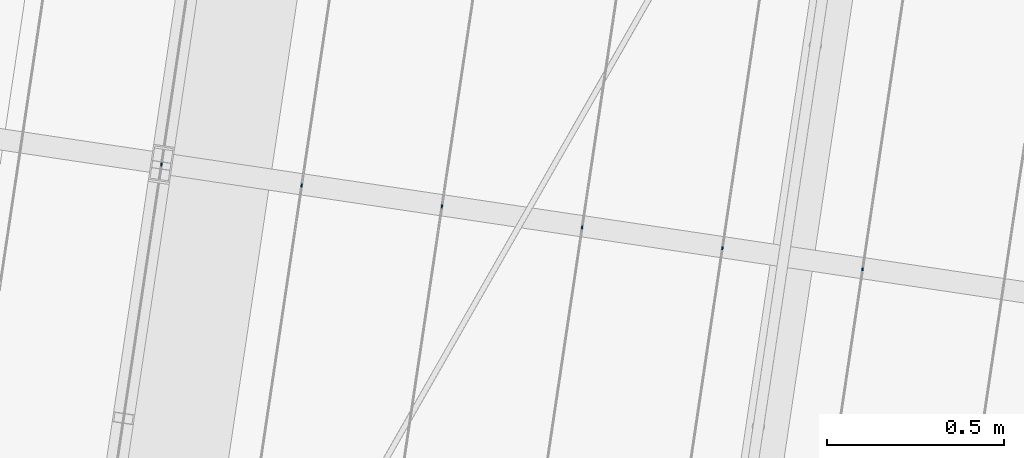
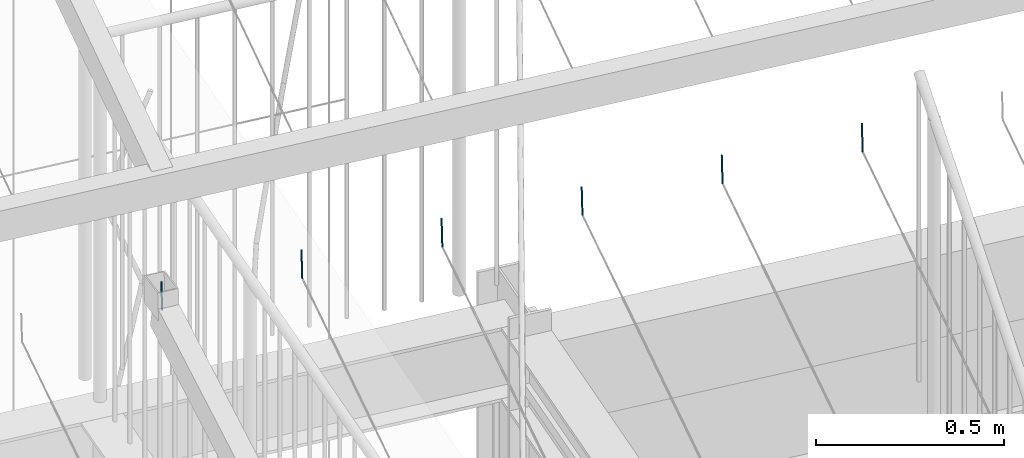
# One storey, part 127 of 142: 6 members, 1 element without a shape of its own.
"""IFC4 building model written with IfcOpenShell, lengths in metres."""

from ifc_helpers import new_model, si_unit, direction, frame, origin_with_axes, place, context, subcontext, project, spatial, circle, extrude, material, material_profile, profile_set, profile_usage, type_object, element, aggregate, save


model = new_model("IFC4")

# Units and contexts
model_context = context("Model", 3, precision=1e-05, world=origin_with_axes(), true_north=direction((0.0, 1.0)))
body_context = subcontext(model_context, "Body", "Model", "MODEL_VIEW")
ifc_project = project(units=[si_unit("AREAUNIT", "SQUARE_METRE"), si_unit("VOLUMEUNIT", "CUBIC_METRE"), si_unit("LENGTHUNIT", "METRE")], contexts=[model_context])

# Site, building, storey
site_placement = place(None, origin_with_axes())
site = spatial("IfcSite", under=ifc_project, at=site_placement, Name="Lares · Rua das Mercês · artigo 4771")
building_placement = place(site_placement, frame((15.0, 9.7, 14.65), z_axis=(0.0, 0.0, 1.0), x_axis=(0.989015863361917, -0.147809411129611, 0.0)))
building = spatial("IfcBuilding", under=site, at=building_placement, Name="Casa Sobreposta")
storey_placement = place(building_placement, origin_with_axes())
storey = spatial("IfcBuildingStorey", under=building, at=storey_placement, Name="00 · Habitação e estacionamento", Elevation=14.65)

# Assembly, members
assembly_placement = place(storey_placement, origin_with_axes())
assembly = element("IfcElementAssembly", 1, at=assembly_placement, inside=storey, Name="Pérgola · prolongamento da estufa 6 m", ObjectType="PERGOLA_GREENHOUSE_EXTENSION", PredefinedType="USERDEFINED")
ifc_material = material(Name="Aço galvanizado / Stahl verzinkt", Category="steel")
ifc_material_profile = material_profile(ifc_material, circle(Radius=0.002))
ifc_profile_set = profile_set([ifc_material_profile], Name="D0.004")
ifc_profile_usage_1 = profile_usage(ifc_profile_set)
member_type = type_object("IfcMemberType", Name="D0.004 / galvanized", PredefinedType="NOTDEFINED", material=ifc_profile_set)
member_1_placement = place(assembly_placement, frame((-3.0, 1.21440957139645, 7.21329402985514), z_axis=(0.0, 0.0686229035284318, 0.997642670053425), x_axis=(1.0, 0.0, 0.0)))
member_1 = element("IfcMember", 2, at=member_1_placement, type_object=member_type, material=ifc_profile_usage_1, Name="Pérgola · fio para trepadeiras", context=body_context, shape_type="SweptSolid", body=[
    extrude(circle(Radius=0.002), origin_with_axes(), (0.0, 0.0, 1.0), 0.0875893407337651),
])
ifc_profile_usage_2 = profile_usage(ifc_profile_set)
member_2_placement = place(assembly_placement, frame((-2.6, 1.21440957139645, 7.21329402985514), z_axis=(0.0, 0.0686229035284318, 0.997642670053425), x_axis=(1.0, 0.0, 0.0)))
member_2 = element("IfcMember", 3, at=member_2_placement, type_object=member_type, material=ifc_profile_usage_2, Name="Pérgola · fio para trepadeiras", context=body_context, shape_type="SweptSolid", body=[
    extrude(circle(Radius=0.002), origin_with_axes(), (0.0, 0.0, 1.0), 0.0875893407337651),
])
ifc_profile_usage_3 = profile_usage(ifc_profile_set)
member_3_placement = place(assembly_placement, frame((-2.2, 1.21440957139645, 7.21329402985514), z_axis=(0.0, 0.0686229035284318, 0.997642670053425), x_axis=(1.0, 0.0, 0.0)))
member_3 = element("IfcMember", 4, at=member_3_placement, type_object=member_type, material=ifc_profile_usage_3, Name="Pérgola · fio para trepadeiras", context=body_context, shape_type="SweptSolid", body=[
    extrude(circle(Radius=0.002), origin_with_axes(), (0.0, 0.0, 1.0), 0.0875893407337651),
])
ifc_profile_usage_4 = profile_usage(ifc_profile_set)
member_4_placement = place(assembly_placement, frame((-1.8, 1.21440957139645, 7.21329402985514), z_axis=(0.0, 0.0686229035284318, 0.997642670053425), x_axis=(1.0, 0.0, 0.0)))
member_4 = element("IfcMember", 5, at=member_4_placement, type_object=member_type, material=ifc_profile_usage_4, Name="Pérgola · fio para trepadeiras", context=body_context, shape_type="SweptSolid", body=[
    extrude(circle(Radius=0.002), origin_with_axes(), (0.0, 0.0, 1.0), 0.0875893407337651),
])
ifc_profile_usage_5 = profile_usage(ifc_profile_set)
member_5_placement = place(assembly_placement, frame((-1.4, 1.21440957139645, 7.21329402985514), z_axis=(0.0, 0.0686229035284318, 0.997642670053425), x_axis=(1.0, 0.0, 0.0)))
member_5 = element("IfcMember", 6, at=member_5_placement, type_object=member_type, material=ifc_profile_usage_5, Name="Pérgola · fio para trepadeiras", context=body_context, shape_type="SweptSolid", body=[
    extrude(circle(Radius=0.002), origin_with_axes(), (0.0, 0.0, 1.0), 0.0875893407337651),
])
ifc_profile_usage_6 = profile_usage(ifc_profile_set)
member_6_placement = place(assembly_placement, frame((-0.999999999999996, 1.21440957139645, 7.21329402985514), z_axis=(0.0, 0.0686229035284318, 0.997642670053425), x_axis=(1.0, 0.0, 0.0)))
member_6 = element("IfcMember", 7, at=member_6_placement, type_object=member_type, material=ifc_profile_usage_6, Name="Pérgola · fio para trepadeiras", context=body_context, shape_type="SweptSolid", body=[
    extrude(circle(Radius=0.002), origin_with_axes(), (0.0, 0.0, 1.0), 0.0875893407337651),
])
aggregate(assembly, [member_1, member_2, member_3, member_4, member_5, member_6])

save(model, "model.ifc")
